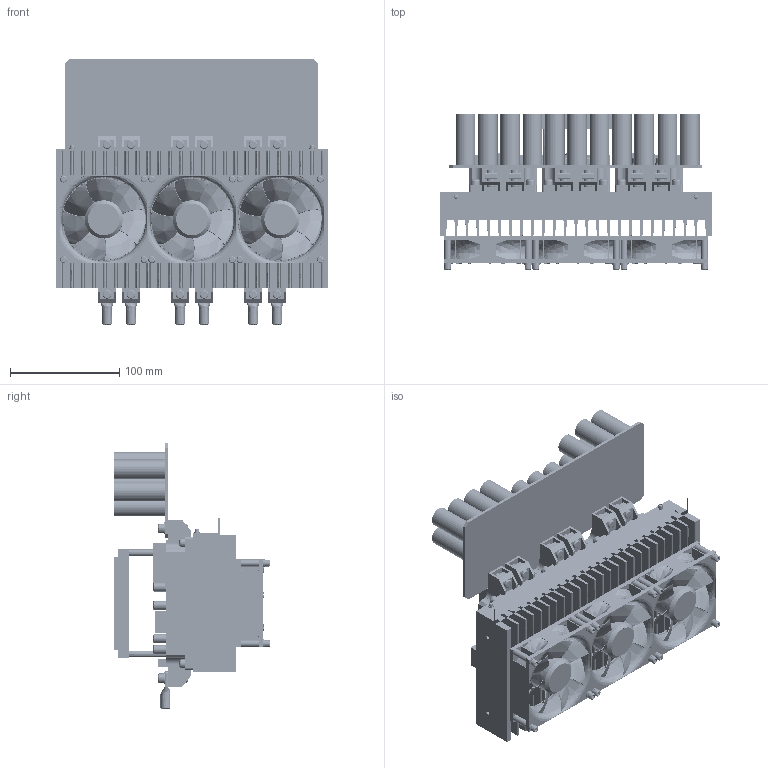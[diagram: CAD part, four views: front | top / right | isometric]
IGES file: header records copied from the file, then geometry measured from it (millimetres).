
Start section: SolidWorks IGES file using analytic representation for surfaces
Global section: file name: C:\Users\l.vacek\Desktop\SolidWorks\YGBT\IGBT_HBC400400.IGS; native system: SolidWorks 2018; preprocessor: SolidWorks 2018; author: l.vacek; date: 181130.155424; units: millimetre
Bounding box: 250 x 143 x 243.25 mm (x, y, z)
Surface area: 650275.4 mm2 (no closed solid volume)
Topology: 0 solids, 0 shells, 3095 faces, 34071 edges, 34044 vertices
Faces by surface type: bspline 2379, revolution 716
